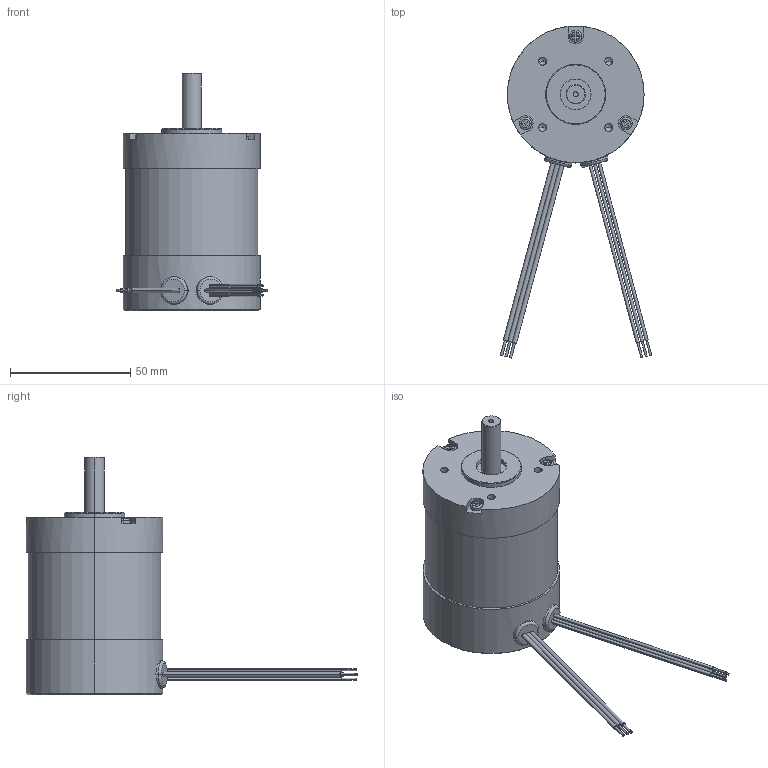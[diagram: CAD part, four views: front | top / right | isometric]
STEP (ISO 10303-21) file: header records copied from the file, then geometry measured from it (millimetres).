
FILE_DESCRIPTION (( 'STEP AP214' ), '1' );
FILE_NAME ('BLWR233S.STEP', '2013-07-24T21:45:07', ( '' ), ( '' ), 'SwSTEP 2.0', 'SolidWorks 2013', '' );
FILE_SCHEMA (( 'AUTOMOTIVE_DESIGN' ));
Length unit declared in the file: inch
Products named in the file (1): BLWR233S
Bounding box: 62.81 x 137.75 x 98.55 mm (x, y, z)
Volume: 183046.5 mm3; surface area: 23302.4 mm2
Topology: 1 solids, 1 shells, 277 faces, 677 edges, 429 vertices
Faces by surface type: plane 129, cylinder 106, cone 28, torus 14
Entity records: 12006 total; most frequent: CARTESIAN_POINT 1792, DIRECTION 1427, ORIENTED_EDGE 1326, EDGE_CURVE 663, AXIS2_PLACEMENT_3D 556, VERTEX_POINT 429, EDGE_LOOP 318, VECTOR 315
